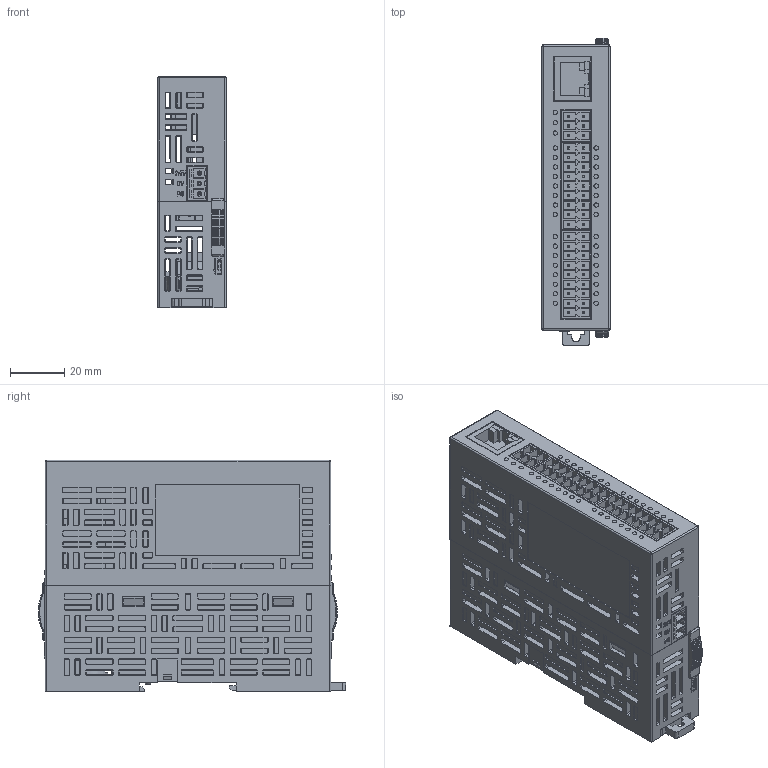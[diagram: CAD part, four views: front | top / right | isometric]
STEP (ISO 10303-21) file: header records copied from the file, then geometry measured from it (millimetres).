
FILE_DESCRIPTION((''),'2;1');
FILE_NAME('MS1-32A4_ASM','2022-03-29T11:39:48',('Lenovo'),(''),'CREO PARAMETRIC BY PTC INC, 2020033','CREO PARAMETRIC BY PTC INC, 2020033','');
FILE_SCHEMA(('CONFIG_CONTROL_DESIGN'));
Products named in the file (21): MS1-32A4-BASE; MS1-32A4-COVER; MS1-32A4-PCB-U; JIEXIANDUANZI-CHAZUO-9PIN; RJ45-HR913550A; JIEXIANDUANZI-CHAZUO-3PIN; OQ381-RIGHT-ANGLE; LED-CE; 24PIN-CHAZUO-NEW; MK-12D28-04; MS-12D04-G4; MS1-32A4-PCB-U_ASM; MS1-32A4-PCB-LED; MS1-32A4-PCB-LED_ASM; MS2-32A4-DAOGUANGZHU; MS1-32A4-DAOGUANGZHU02; KAKOU-MK; DIANCHIHE-165; MS2-32A4-XIAOGAIBAN; MS2-32A4-MKGDK; MS1-32A4_ASM
Assembly tree (58 placements, depth 3):
  MS1-32A4_ASM
    MS1-32A4-BASE
    MS1-32A4-COVER
    MS1-32A4-PCB-U_ASM
      MS1-32A4-PCB-U
      JIEXIANDUANZI-CHAZUO-9PIN  x2
      RJ45-HR913550A
      JIEXIANDUANZI-CHAZUO-3PIN
      OQ381-RIGHT-ANGLE
      LED-CE  x16
      24PIN-CHAZUO-NEW
      MK-12D28-04
      MS-12D04-G4
    MS1-32A4-PCB-LED_ASM
      MS1-32A4-PCB-LED
      LED-CE  x19
    MS2-32A4-DAOGUANGZHU  x3
    MS1-32A4-DAOGUANGZHU02
    KAKOU-MK
    DIANCHIHE-165
    MS2-32A4-XIAOGAIBAN
    MS2-32A4-MKGDK  x2
Bounding box: 25 x 112.94 x 85 mm (x, y, z)
Volume: 75244.5 mm3; surface area: 100429.9 mm2
Topology: 56 solids, 58 shells, 6556 faces, 17430 edges, 11408 vertices
Faces by surface type: plane 4871, cone 1147, cylinder 462, extrusion 28, sphere 20, torus 16, bspline 12
Entity records: 171836 total; most frequent: CARTESIAN_POINT 33503, ORIENTED_EDGE 29238, DIRECTION 27121, EDGE_CURVE 14627, VECTOR 11573, LINE 11559, VERTEX_POINT 9610, AXIS2_PLACEMENT_3D 7774
